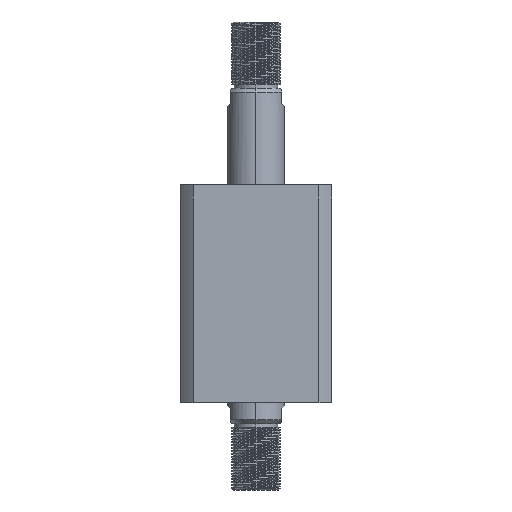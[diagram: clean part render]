
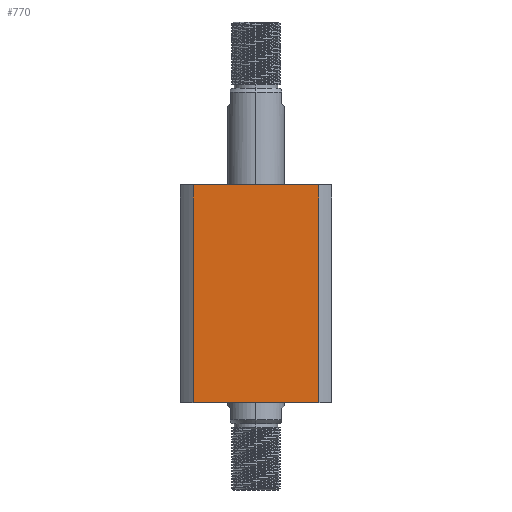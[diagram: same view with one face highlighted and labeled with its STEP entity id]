
A CAD part, left-side view. The second image highlights one B-rep face of the part: STEP entity #770.
In plain terms, the highlighted planar face has unit normal (-1, 0, 0).
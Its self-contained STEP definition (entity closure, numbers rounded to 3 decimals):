
#49 = ORIENTED_EDGE ( 'NONE', *, *, #12341, .T. ) ;
#205 = VECTOR ( 'NONE', #10028, 1000. ) ;
#616 = VERTEX_POINT ( 'NONE', #6688 ) ;
#770 = ADVANCED_FACE ( 'NONE', ( #3959 ), #12426, .F. ) ;
#1480 = LINE ( 'NONE', #12683, #205 ) ;
#2380 = LINE ( 'NONE', #6754, #9360 ) ;
#3255 = DIRECTION ( 'NONE',  ( 0., -1., 0. ) ) ;
#3424 = CARTESIAN_POINT ( 'NONE',  ( -40., 33.226, 57.5 ) ) ;
#3959 = FACE_OUTER_BOUND ( 'NONE', #7501, .T. ) ;
#4351 = DIRECTION ( 'NONE',  ( 1., 0., 0. ) ) ;
#4730 = ORIENTED_EDGE ( 'NONE', *, *, #16280, .F. ) ;
#5216 = ORIENTED_EDGE ( 'NONE', *, *, #17348, .T. ) ;
#5414 = CARTESIAN_POINT ( 'NONE',  ( -40., -33.226, -57.5 ) ) ;
#5468 = ORIENTED_EDGE ( 'NONE', *, *, #6569, .F. ) ;
#6484 = CARTESIAN_POINT ( 'NONE',  ( -40., -33.226, 57.5 ) ) ;
#6569 = EDGE_CURVE ( 'NONE', #7800, #13378, #8879, .T. ) ;
#6688 = CARTESIAN_POINT ( 'NONE',  ( -40., 33.226, -57.5 ) ) ;
#6754 = CARTESIAN_POINT ( 'NONE',  ( -40., 33.226, -57.5 ) ) ;
#7501 = EDGE_LOOP ( 'NONE', ( #5216, #5468, #4730, #49 ) ) ;
#7800 = VERTEX_POINT ( 'NONE', #6484 ) ;
#8137 = DIRECTION ( 'NONE',  ( 0., -1., 0. ) ) ;
#8879 = LINE ( 'NONE', #8949, #9104 ) ;
#8949 = CARTESIAN_POINT ( 'NONE',  ( -40., -33.226, 57.5 ) ) ;
#9104 = VECTOR ( 'NONE', #17233, 1000. ) ;
#9360 = VECTOR ( 'NONE', #8137, 1000. ) ;
#9706 = CARTESIAN_POINT ( 'NONE',  ( -40., 33.226, 57.5 ) ) ;
#10017 = VECTOR ( 'NONE', #3255, 1000. ) ;
#10028 = DIRECTION ( 'NONE',  ( 0., 0., -1. ) ) ;
#11219 = AXIS2_PLACEMENT_3D ( 'NONE', #9706, #4351, #13796 ) ;
#12341 = EDGE_CURVE ( 'NONE', #15481, #616, #1480, .T. ) ;
#12426 = PLANE ( 'NONE',  #11219 ) ;
#12644 = CARTESIAN_POINT ( 'NONE',  ( -40., 33.226, 57.5 ) ) ;
#12683 = CARTESIAN_POINT ( 'NONE',  ( -40., 33.226, 57.5 ) ) ;
#13378 = VERTEX_POINT ( 'NONE', #5414 ) ;
#13796 = DIRECTION ( 'NONE',  ( 0., 1., 0. ) ) ;
#15481 = VERTEX_POINT ( 'NONE', #3424 ) ;
#16280 = EDGE_CURVE ( 'NONE', #15481, #7800, #17274, .T. ) ;
#17233 = DIRECTION ( 'NONE',  ( 0., 0., -1. ) ) ;
#17274 = LINE ( 'NONE', #12644, #10017 ) ;
#17348 = EDGE_CURVE ( 'NONE', #616, #13378, #2380, .T. ) ;
